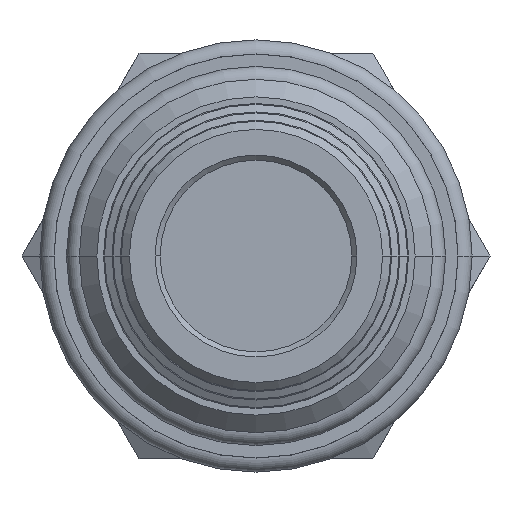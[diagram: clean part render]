
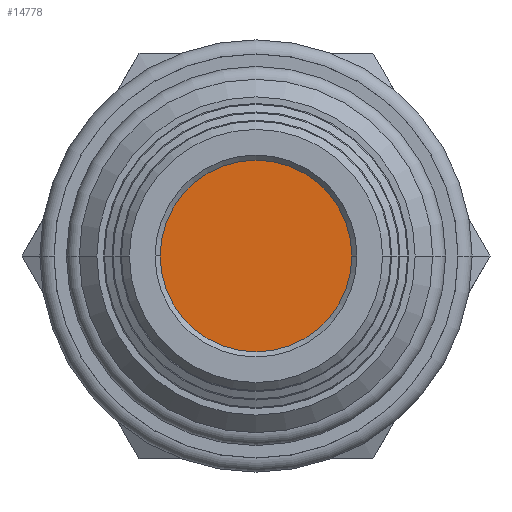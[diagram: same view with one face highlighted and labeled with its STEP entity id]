
A CAD part, front view. The second image highlights one B-rep face of the part: STEP entity #14778.
In plain terms, the highlighted planar face has unit normal (0, -1, 0).
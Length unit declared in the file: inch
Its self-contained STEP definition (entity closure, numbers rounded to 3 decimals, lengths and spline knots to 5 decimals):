
#10111=CARTESIAN_POINT('',(0.,-4.021,0.));
#10112=DIRECTION('',(0.,-1.,0.));
#10113=DIRECTION('',(-1.,0.,0.));
#10114=AXIS2_PLACEMENT_3D('',#10111,#10112,#10113);
#10126=CARTESIAN_POINT('',(0.,-4.021,0.));
#10127=DIRECTION('',(0.,-1.,0.));
#10128=DIRECTION('',(1.,0.,0.));
#10129=AXIS2_PLACEMENT_3D('',#10126,#10127,#10128);
#10499=CARTESIAN_POINT('',(0.35475,-4.021,0.));
#10500=CARTESIAN_POINT('',(-0.35475,-4.021,0.));
#10501=VERTEX_POINT('',#10499);
#10502=VERTEX_POINT('',#10500);
#14768=CARTESIAN_POINT('',(0.,-4.021,0.));
#14769=DIRECTION('',(0.,-1.,0.));
#14770=DIRECTION('',(-1.,0.,0.));
#14771=AXIS2_PLACEMENT_3D('',#14768,#14769,#14770);
#14772=PLANE('',#14771);
#14774=ORIENTED_EDGE('',*,*,#14773,.F.);
#14775=ORIENTED_EDGE('',*,*,#14751,.F.);
#14776=EDGE_LOOP('',(#14774,#14775));
#14777=FACE_OUTER_BOUND('',#14776,.F.);
#10115=CIRCLE('',#10114,0.35475);
#10130=CIRCLE('',#10129,0.35475);
#14751=EDGE_CURVE('',#10502,#10501,#10115,.T.);
#14773=EDGE_CURVE('',#10501,#10502,#10130,.T.);
#14778=ADVANCED_FACE('',(#14777),#14772,.T.);
